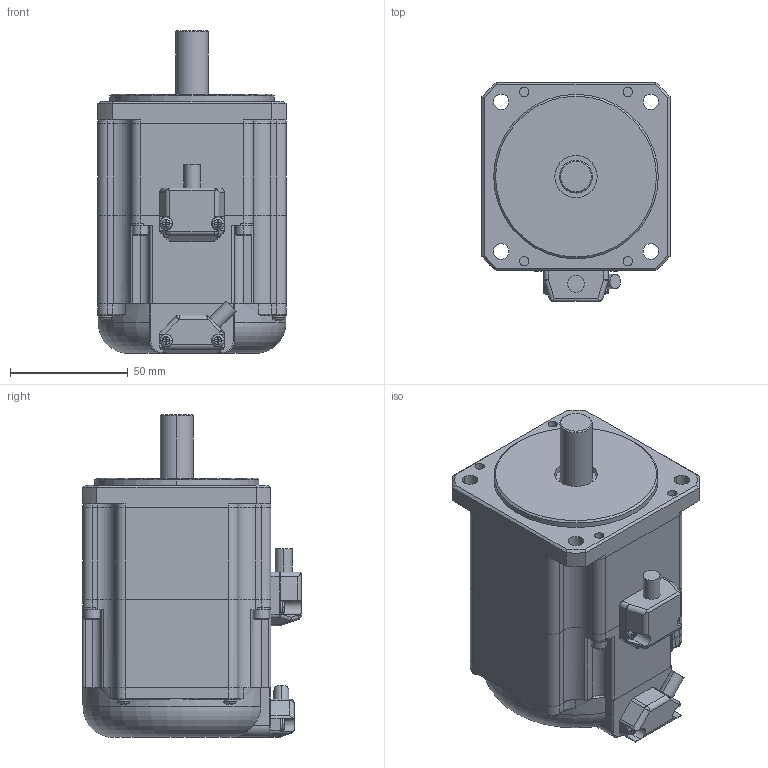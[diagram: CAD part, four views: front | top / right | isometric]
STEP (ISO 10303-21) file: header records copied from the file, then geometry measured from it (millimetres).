
FILE_DESCRIPTION(('Creo Elements/Direct Modeling STEP Export'),'2;1');
FILE_NAME('TS4612_BK有.stp','2016-12-22T16:44:21',(''),(''),'Creo Elements/Direct Modeling STEP processor for AP214 (Solid Model)','Creo Elements/Direct Modeling 17.0F 20-Aug-2012 (C) Parametric Technology GmbH','');
FILE_SCHEMA(('AUTOMOTIVE_DESIGN { 1 0 10303 214 1 1 1 1 }'));
Length unit declared in the file: millimetre
Products named in the file (2): TS4612N6000
Assembly tree (1 placements, depth 2):
  TS4612N6000
    TS4612N6000
Bounding box: 80 x 93 x 137.3 mm (x, y, z)
Volume: 610421.5 mm3; surface area: 48201 mm2
Topology: 1 solids, 1 shells, 658 faces, 1550 edges, 898 vertices
Faces by surface type: plane 333, cylinder 227, cone 40, sphere 29, torus 27, bspline 2
Entity records: 19524 total; most frequent: CARTESIAN_POINT 4119, ORIENTED_EDGE 3058, DIRECTION 3048, EDGE_CURVE 1529, AXIS2_PLACEMENT_3D 1165, VERTEX_POINT 898, VECTOR 718, LINE 718
